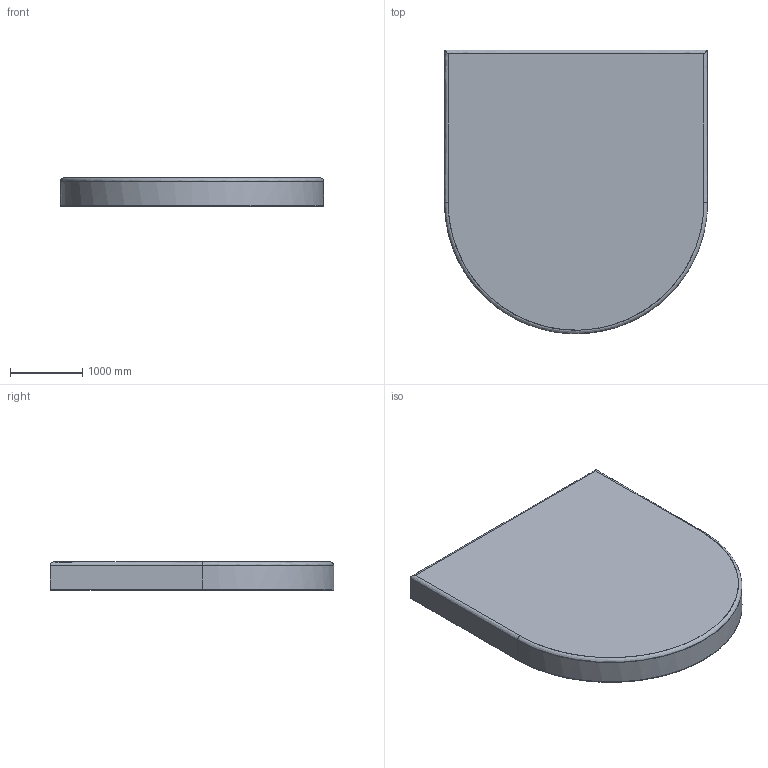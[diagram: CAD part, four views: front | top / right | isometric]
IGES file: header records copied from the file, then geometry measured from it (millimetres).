
Global section: file name: C:\Users\Massimiliano\Desktop\MOON wc mini art.5524-CL 45x35\MOON wc sospeso mini art.5524.igs; native system: Rhinoceros ( Mar 28 2013 ); preprocessor: Trout Lake IGES 012 Mar 28 2013; date: 180117.093948; units: centimetre
Bounding box: 3652.5 x 3939.23 x 390 mm (x, y, z)
Surface area: 31603963 mm2 (no closed solid volume)
Topology: 0 solids, 0 shells, 31 faces, 321 edges, 320 vertices
Faces by surface type: bspline 31
